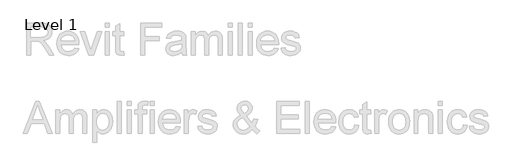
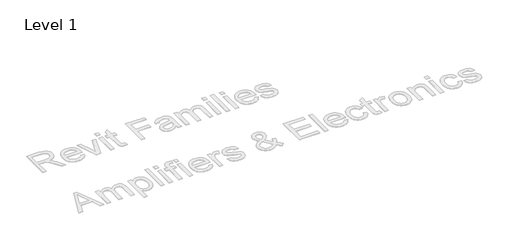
# One storey, part 14 of 14: 1 proxy.
"""IFC4 building model written with IfcOpenShell, lengths in millimetres."""

from ifc_helpers import new_model, si_unit, origin, origin_with_axes, place, context, project, spatial, polyline, outline, extrude, element, save

model = new_model("IFC4")

# Units and contexts
model_context = context("Model", 3, world=origin())
ifc_project = project(units=[si_unit("LENGTHUNIT", "METRE", prefix="MILLI")], contexts=[model_context])

# Site, building, storey
site = spatial("IfcSite", under=ifc_project)
building = spatial("IfcBuilding", under=site)
storey = spatial("IfcBuildingStorey", under=building, Name="Level 1", Elevation=0.0)

# Proxy
placement = place(None, origin())
element("IfcBuildingElementProxy", 1, Name="600mm Arial", ObjectType="600mm Arial", at=placement, inside=storey, context=model_context, shape_type="SweptSolid", body=[
    extrude(outline(polyline([(-11309.2935955, 22041.6162982), (-11309.2935955, 22632.385529), (-11054.7262878, 22632.385529), (-10986.3068167, 22628.401154), (-10936.5291724, 22616.448029), (-10917.3194369, 22606.9468271), (-10900.1469609, 22594.3807213), (-10885.0117446, 22578.7497117), (-10871.9137878, 22560.0537982), (-10861.3443768, 22539.2980891), (-10853.7947974, 22517.4876924), (-10847.755134, 22470.7028367), (-10850.2566364, 22440.3602886), (-10857.7611436, 22412.5057213), (-10870.2686556, 22387.1391347), (-10887.7791724, 22364.260529), (-10910.5180547, 22344.6000722), (-10938.7106628, 22328.8879328), (-10972.356997, 22317.1241107), (-11011.4570571, 22309.3086059), (-10987.1181148, 22293.4071636), (-10969.4859032, 22277.7220674), (-10909.630134, 22201.7124521), (-10811.1205186, 22041.6162982), (-10896.9378263, 22041.6162982), (-10973.8128263, 22164.0682213), (-11029.3416724, 22245.1259136), (-11049.9847013, 22268.7617309), (-11068.3560955, 22283.4191828), (-11103.4762878, 22297.4816828), (-11146.3128263, 22300.0778367), (-11235.4474417, 22300.0778367), (-11235.4474417, 22041.6162982), (-11309.2935955, 22041.6162982)]), holes=[polyline([(-11235.4474417, 22373.9239905), (-11070.1589801, 22373.9239905), (-11022.6890282, 22376.5381732), (-10985.8560955, 22384.3807213), (-10958.1277301, 22397.9744713), (-10937.9714801, 22417.8422597), (-10925.6938359, 22441.8747117), (-10921.6012878, 22467.9624521), (-10923.5529104, 22486.8476684), (-10929.4077782, 22503.9840867), (-10939.1658912, 22519.3717069), (-10952.8272494, 22533.010529), (-10970.7073575, 22544.1793992), (-10993.1217205, 22552.1571636), (-11020.0703383, 22556.9438222), (-11051.5532109, 22558.5393751), (-11235.4474417, 22558.5393751), (-11235.4474417, 22373.9239905)])]), origin_with_axes(), (0.0, 0.0, 1.0), 5.0),
    extrude(outline(polyline([(-10424.005134, 22170.8470674), (-10351.6012878, 22161.6162982), (-10362.7025498, 22132.6168992), (-10377.6890282, 22107.0610097), (-10396.5607229, 22084.9486299), (-10419.317634, 22066.2797597), (-10445.7253864, 22051.4510338), (-10475.5496051, 22040.8590867), (-10508.7902902, 22034.5039184), (-10545.4474417, 22032.385529), (-10591.2677542, 22036.0408775), (-10632.0940763, 22047.0069232), (-10667.926408, 22065.283666), (-10698.7647494, 22090.8711059), (-10723.5634273, 22123.0571035), (-10741.2767686, 22161.1295194), (-10751.9047734, 22205.0883535), (-10755.4474417, 22254.9336059), (-10751.8687157, 22306.4690626), (-10741.1325378, 22351.8927405), (-10723.238908, 22391.2046396), (-10698.1878263, 22424.4047597), (-10667.4306148, 22450.7809617), (-10632.4185955, 22469.6211059), (-10593.1517686, 22480.9251924), (-10549.630134, 22484.6932213), (-10507.5102422, 22480.9342069), (-10469.4197974, 22469.6571636), (-10435.3587998, 22450.8620915), (-10405.3272494, 22424.5489905), (-10380.8125258, 22391.4209857), (-10363.302009, 22352.1812021), (-10352.7956989, 22306.8296396), (-10349.2935955, 22255.3662982), (-10349.7262878, 22235.4624521), (-10681.6012878, 22235.4624521), (-10677.3239441, 22205.994303), (-10668.8188359, 22180.1860097), (-10656.0859633, 22158.0375722), (-10639.1253263, 22139.5489905), (-10618.8744248, 22124.9726684), (-10596.270759, 22114.5610097), (-10571.3143287, 22108.3140146), (-10544.005134, 22106.2316828), (-10504.7022494, 22110.0898559), (-10471.6012878, 22121.6643751), (-10444.7022494, 22141.6763944), (-10424.005134, 22170.8470674)]), holes=[polyline([(-10681.6012878, 22309.3086059), (-10423.1397494, 22309.3086059), (-10433.1277301, 22348.323029), (-10441.7184753, 22363.6655771), (-10452.7070571, 22376.2316828), (-10472.8452782, 22391.3759136), (-10495.7599417, 22402.1932213), (-10521.4510474, 22408.6836059), (-10549.9185955, 22410.8470674), (-10575.8846412, 22409.1208054), (-10599.6962398, 22403.9420194), (-10621.3533912, 22395.3107093), (-10640.8560955, 22383.2268751), (-10657.2217806, 22368.2494112), (-10669.4678744, 22350.9372117), (-10677.5943768, 22331.2902766), (-10681.6012878, 22309.3086059)])]), origin_with_axes(), (0.0, 0.0, 1.0), 5.0),
    extrude(outline(polyline([(-10169.005134, 22041.6162982), (-10321.6012878, 22475.4624521), (-10243.4282109, 22475.4624521), (-10150.9762878, 22215.5586059), (-10123.1397494, 22128.1547597), (-10095.880134, 22210.6547597), (-10002.8512878, 22475.4624521), (-9924.6782109, 22475.4624521), (-10075.3993648, 22041.6162982), (-10169.005134, 22041.6162982)])), origin_with_axes(), (0.0, 0.0, 1.0), 5.0),
    extrude(outline(polyline([(-9860.0628263, 22041.6162982), (-9860.0628263, 22475.4624521), (-9786.2166724, 22475.4624521), (-9786.2166724, 22041.6162982), (-9860.0628263, 22041.6162982)])), origin_with_axes(), (0.0, 0.0, 1.0), 5.0),
    extrude(outline(polyline([(-9860.0628263, 22558.5393751), (-9860.0628263, 22632.385529), (-9786.2166724, 22632.385529), (-9786.2166724, 22558.5393751), (-9860.0628263, 22558.5393751)])), origin_with_axes(), (0.0, 0.0, 1.0), 5.0),
    extrude(outline(polyline([(-9518.5243648, 22103.2028367), (-9509.2935955, 22039.4528367), (-9564.5339801, 22032.385529), (-9599.9786917, 22035.4504328), (-9626.4089801, 22044.6451444), (-9645.0868648, 22058.8158174), (-9657.2743648, 22076.8086059), (-9663.9810955, 22107.7100482), (-9666.2166724, 22160.6066828), (-9666.2166724, 22401.6162982), (-9721.6012878, 22401.6162982), (-9721.6012878, 22475.4624521), (-9666.2166724, 22475.4624521), (-9666.2166724, 22580.8951444), (-9592.3705186, 22624.3086059), (-9592.3705186, 22475.4624521), (-9518.5243648, 22475.4624521), (-9518.5243648, 22401.6162982), (-9592.3705186, 22401.6162982), (-9592.3705186, 22162.7701444), (-9588.4762878, 22124.6932213), (-9575.8560955, 22111.2076444), (-9565.2010474, 22107.4756732), (-9550.6878263, 22106.2316828), (-9518.5243648, 22103.2028367)])), origin_with_axes(), (0.0, 0.0, 1.0), 5.0),
    extrude(outline(polyline([(-9204.6782109, 22041.6162982), (-9204.6782109, 22632.385529), (-8807.755134, 22632.385529), (-8807.755134, 22558.5393751), (-9130.8320571, 22558.5393751), (-9130.8320571, 22383.1547597), (-8853.9089801, 22383.1547597), (-8853.9089801, 22309.3086059), (-9130.8320571, 22309.3086059), (-9130.8320571, 22041.6162982), (-9204.6782109, 22041.6162982)])), origin_with_axes(), (0.0, 0.0, 1.0), 5.0),
    extrude(outline(polyline([(-8438.5243648, 22097.0009136), (-8473.8068167, 22066.7485097), (-8510.1349417, 22046.9528367), (-8548.3380667, 22036.0273559), (-8589.2455186, 22032.385529), (-8622.1256268, 22034.5760338), (-8650.958259, 22041.1475482), (-8675.7434152, 22052.1000722), (-8696.4810955, 22067.4336059), (-8712.855795, 22086.1745915), (-8724.552009, 22107.3494713), (-8731.5697373, 22130.9582453), (-8733.9089801, 22157.0009136), (-8730.3753263, 22187.6138944), (-8719.7743648, 22215.4143751), (-8703.4222013, 22239.2124521), (-8682.6349417, 22257.8182213), (-8658.2058551, 22271.8807213), (-8630.9282109, 22282.0489905), (-8567.0339801, 22293.1547597), (-8491.5291724, 22304.8374521), (-8438.9570571, 22318.5393751), (-8438.5243648, 22334.9816828), (-8443.6084994, 22367.9384136), (-8449.9636676, 22380.1439424), (-8458.8609032, 22389.5009136), (-8474.239509, 22398.8398559), (-8492.9714801, 22405.510529), (-8540.4955186, 22410.8470674), (-8584.4859032, 22407.2953847), (-8615.2070571, 22396.6403367), (-8636.1565763, 22376.9348078), (-8650.8320571, 22346.2316828), (-8724.6782109, 22355.4624521), (-8711.8597013, 22395.8470674), (-8692.7310955, 22427.5778367), (-8665.5075378, 22451.8446636), (-8628.4041724, 22469.8374521), (-8583.0255667, 22480.979279), (-8530.9762878, 22484.6932213), (-8481.0544128, 22481.4119713), (-8441.4810955, 22471.5682213), (-8411.6433551, 22456.7665386), (-8390.9282109, 22438.6114905), (-8377.1902301, 22416.1655771), (-8368.2839801, 22388.4912982), (-8364.6782109, 22323.8759136), (-8364.6782109, 22232.0009136), (-8360.9282109, 22103.7076444), (-8355.3753263, 22071.994904), (-8346.2166724, 22041.6162982), (-8420.0628263, 22041.6162982), (-8431.8897494, 22067.2893751), (-8438.5243648, 22097.0009136)]), holes=[polyline([(-8438.5243648, 22244.6932213), (-8488.1397494, 22232.3975482), (-8557.6589801, 22222.0489905), (-8621.192634, 22210.0778367), (-8637.7250859, 22201.8927405), (-8649.9666724, 22190.6066828), (-8657.5387878, 22177.0850482), (-8660.0628263, 22162.1932213), (-8654.5640282, 22140.2340867), (-8638.067634, 22122.2412982), (-8610.9342205, 22110.2340867), (-8573.5243648, 22106.2316828), (-8533.8609032, 22110.6487501), (-8498.8128263, 22123.8999521), (-8470.3993648, 22143.4251924), (-8450.6397494, 22166.6643751), (-8441.8777301, 22190.6066828), (-8438.9570571, 22223.7797597), (-8438.5243648, 22244.6932213)])]), origin_with_axes(), (0.0, 0.0, 1.0), 5.0),
    extrude(outline(polyline([(-8263.1397494, 22041.6162982), (-8263.1397494, 22475.4624521), (-8189.2935955, 22475.4624521), (-8189.2935955, 22404.0682213), (-8167.0820571, 22436.8626924), (-8138.5243648, 22462.5537982), (-8104.5940763, 22479.1583655), (-8066.2647494, 22484.6932213), (-8025.1950378, 22479.0501924), (-8007.7160715, 22471.9964064), (-7992.2743648, 22462.1211059), (-7967.6830186, 22435.0237501), (-7951.6012878, 22398.8759136), (-7924.6842205, 22436.4209857), (-7893.9810955, 22463.2388944), (-7859.4919128, 22479.3296396), (-7821.2166724, 22484.6932213), (-7791.653872, 22482.4621516), (-7765.7058551, 22475.7689424), (-7743.372622, 22464.6135939), (-7724.6541724, 22448.9961059), (-7709.856997, 22428.73619), (-7699.2875859, 22403.6535578), (-7692.9459393, 22373.7482093), (-7690.8320571, 22339.0201444), (-7690.8320571, 22041.6162982), (-7764.6782109, 22041.6162982), (-7764.6782109, 22307.2893751), (-7766.3909513, 22344.1223078), (-7771.5291724, 22368.948029), (-7781.1565763, 22385.9492309), (-7796.3368648, 22399.3086059), (-7815.8621051, 22407.9624521), (-7838.5243648, 22410.8470674), (-7859.4513479, 22408.9991107), (-7878.5303744, 22403.4552405), (-7895.7614441, 22394.2154569), (-7911.1445571, 22381.2797597), (-7923.7962998, 22364.2695434), (-7932.833259, 22342.8062021), (-7938.2554345, 22316.8897357), (-7940.0628263, 22286.5201444), (-7940.0628263, 22041.6162982), (-8013.9089801, 22041.6162982), (-8013.9089801, 22315.510529), (-8018.1818167, 22357.2653367), (-8031.0003263, 22387.0489905), (-8040.9116845, 22397.4606492), (-8053.5544128, 22404.8975482), (-8068.9285114, 22409.3596876), (-8087.0339801, 22410.8470674), (-8115.4834994, 22406.8807213), (-8141.6974417, 22394.9816828), (-8163.3320571, 22375.4384136), (-8178.0435955, 22348.5393751), (-8186.4810955, 22311.2196636), (-8189.2935955, 22260.4143751), (-8189.2935955, 22041.6162982), (-8263.1397494, 22041.6162982)])), origin_with_axes(), (0.0, 0.0, 1.0), 5.0),
    extrude(outline(polyline([(-7580.0628263, 22041.6162982), (-7580.0628263, 22475.4624521), (-7506.2166724, 22475.4624521), (-7506.2166724, 22041.6162982), (-7580.0628263, 22041.6162982)])), origin_with_axes(), (0.0, 0.0, 1.0), 5.0),
    extrude(outline(polyline([(-7580.0628263, 22558.5393751), (-7580.0628263, 22632.385529), (-7506.2166724, 22632.385529), (-7506.2166724, 22558.5393751), (-7580.0628263, 22558.5393751)])), origin_with_axes(), (0.0, 0.0, 1.0), 5.0),
    extrude(outline(polyline([(-7395.4474417, 22041.6162982), (-7395.4474417, 22632.385529), (-7321.6012878, 22632.385529), (-7321.6012878, 22041.6162982), (-7395.4474417, 22041.6162982)])), origin_with_axes(), (0.0, 0.0, 1.0), 5.0),
    extrude(outline(polyline([(-7210.8320571, 22041.6162982), (-7210.8320571, 22475.4624521), (-7136.9859032, 22475.4624521), (-7136.9859032, 22041.6162982), (-7210.8320571, 22041.6162982)])), origin_with_axes(), (0.0, 0.0, 1.0), 5.0),
    extrude(outline(polyline([(-7210.8320571, 22558.5393751), (-7210.8320571, 22632.385529), (-7136.9859032, 22632.385529), (-7136.9859032, 22558.5393751), (-7210.8320571, 22558.5393751)])), origin_with_axes(), (0.0, 0.0, 1.0), 5.0),
    extrude(outline(polyline([(-6722.4666724, 22170.8470674), (-6650.0628263, 22161.6162982), (-6661.1640883, 22132.6168992), (-6676.1505667, 22107.0610097), (-6695.0222614, 22084.9486299), (-6717.7791724, 22066.2797597), (-6744.1869248, 22051.4510338), (-6774.0111436, 22040.8590867), (-6807.2518287, 22034.5039184), (-6843.9089801, 22032.385529), (-6889.7292926, 22036.0408775), (-6930.5556148, 22047.0069232), (-6966.3879465, 22065.283666), (-6997.2262878, 22090.8711059), (-7022.0249657, 22123.0571035), (-7039.7383071, 22161.1295194), (-7050.3663119, 22205.0883535), (-7053.9089801, 22254.9336059), (-7050.3302542, 22306.4690626), (-7039.5940763, 22351.8927405), (-7021.7004465, 22391.2046396), (-6996.6493648, 22424.4047597), (-6965.8921532, 22450.7809617), (-6930.880134, 22469.6211059), (-6891.6133071, 22480.9251924), (-6848.0916724, 22484.6932213), (-6805.9717806, 22480.9342069), (-6767.8813359, 22469.6571636), (-6733.8203383, 22450.8620915), (-6703.7887878, 22424.5489905), (-6679.2740643, 22391.4209857), (-6661.7635474, 22352.1812021), (-6651.2572373, 22306.8296396), (-6647.755134, 22255.3662982), (-6648.1878263, 22235.4624521), (-6980.0628263, 22235.4624521), (-6975.7854825, 22205.994303), (-6967.2803744, 22180.1860097), (-6954.5475018, 22158.0375722), (-6937.5868648, 22139.5489905), (-6917.3359633, 22124.9726684), (-6894.7322974, 22114.5610097), (-6869.7758672, 22108.3140146), (-6842.4666724, 22106.2316828), (-6803.1637878, 22110.0898559), (-6770.0628263, 22121.6643751), (-6743.1637878, 22141.6763944), (-6722.4666724, 22170.8470674)]), holes=[polyline([(-6980.0628263, 22309.3086059), (-6721.6012878, 22309.3086059), (-6731.5892686, 22348.323029), (-6740.1800138, 22363.6655771), (-6751.1685955, 22376.2316828), (-6771.3068167, 22391.3759136), (-6794.2214801, 22402.1932213), (-6819.9125859, 22408.6836059), (-6848.380134, 22410.8470674), (-6874.3461797, 22409.1208054), (-6898.1577782, 22403.9420194), (-6919.8149297, 22395.3107093), (-6939.317634, 22383.2268751), (-6955.6833191, 22368.2494112), (-6967.9294128, 22350.9372117), (-6976.0559152, 22331.2902766), (-6980.0628263, 22309.3086059)])]), origin_with_axes(), (0.0, 0.0, 1.0), 5.0),
    extrude(outline(polyline([(-6601.6012878, 22170.8470674), (-6527.755134, 22180.0778367), (-6523.2929946, 22163.2388944), (-6516.1084994, 22148.4912982), (-6506.2016484, 22135.8350482), (-6493.5724417, 22125.2701444), (-6478.1848215, 22116.9408174), (-6460.0027301, 22110.9912982), (-6415.255134, 22106.2316828), (-6371.0484032, 22110.5946636), (-6353.8669128, 22116.0483896), (-6339.9666724, 22123.6836059), (-6321.5772494, 22142.6499521), (-6315.4474417, 22164.6451444), (-6316.988908, 22174.6150963), (-6321.6133071, 22183.4672597), (-6340.1109032, 22197.8182213), (-6367.7671532, 22207.1932213), (-6416.1205186, 22218.8759136), (-6483.5123455, 22238.3650963), (-6527.3224417, 22255.0057213), (-6555.4654705, 22273.1607694), (-6575.8560955, 22297.1932213), (-6588.2419128, 22325.5706251), (-6592.3705186, 22356.760529), (-6589.0532109, 22385.3723078), (-6579.1012878, 22411.7845674), (-6563.4161917, 22434.9516347), (-6542.8993648, 22453.8278367), (-6522.5087398, 22465.7088463), (-6495.9522494, 22475.6787982), (-6465.2491244, 22482.4396155), (-6432.4185955, 22484.6932213), (-6384.3536917, 22481.0694232), (-6342.5628263, 22470.198029), (-6308.9570571, 22453.1427405), (-6285.4474417, 22430.9672597), (-6269.8705186, 22402.0309617), (-6260.0628263, 22364.6932213), (-6333.9089801, 22355.4624521), (-6343.2298936, 22378.7016347), (-6361.6734032, 22396.2076444), (-6389.4197974, 22407.1872117), (-6426.6493648, 22410.8470674), (-6469.0532109, 22407.3494713), (-6497.3224417, 22396.8566828), (-6513.223884, 22381.7124521), (-6518.5243648, 22364.260529), (-6516.3248455, 22352.9023559), (-6509.7262878, 22342.7701444), (-6498.4402301, 22333.7196636), (-6482.1782109, 22326.4720674), (-6418.5724417, 22310.7509136), (-6310.1830186, 22275.9912982), (-6281.5532109, 22259.3687021), (-6259.8464801, 22236.6162982), (-6246.1625859, 22207.6619713), (-6241.6012878, 22172.4336059), (-6246.9558551, 22136.0153367), (-6263.0195571, 22101.760529), (-6289.1794128, 22072.3554809), (-6324.8224417, 22050.4864905), (-6367.8753263, 22036.9107694), (-6416.2647494, 22032.385529), (-6456.0093407, 22034.5670194), (-6490.723884, 22041.1114905), (-6520.4083792, 22052.0189424), (-6545.0628263, 22067.2893751), (-6565.2010474, 22086.8506732), (-6581.3368648, 22110.6307213), (-6593.4702782, 22138.6295194), (-6601.6012878, 22170.8470674)])), origin_with_axes(), (0.0, 0.0, 1.0), 5.0),
    extrude(outline(polyline([(-11378.0916724, 20583.1547597), (-11142.2743648, 21173.9239905), (-11079.3897494, 21173.9239905), (-10843.5724417, 20583.1547597), (-10921.6012878, 20583.1547597), (-10989.2455186, 20767.7701444), (-11232.5628263, 20767.7701444), (-11300.0628263, 20583.1547597), (-11378.0916724, 20583.1547597)]), holes=[polyline([(-11205.4474417, 20841.6162982), (-11016.2166724, 20841.6162982), (-11069.4378263, 20986.8566828), (-11110.8320571, 21100.0778367), (-11147.6109032, 20999.5489905), (-11205.4474417, 20841.6162982)])]), origin_with_axes(), (0.0, 0.0, 1.0), 5.0),
    extrude(outline(polyline([(-10773.9089801, 20583.1547597), (-10773.9089801, 21017.0009136), (-10700.0628263, 21017.0009136), (-10700.0628263, 20945.6066828), (-10677.8512878, 20978.401154), (-10649.2935955, 21004.0922597), (-10615.3633071, 21020.6968271), (-10577.0339801, 21026.2316828), (-10535.9642686, 21020.588654), (-10518.4853023, 21013.5348679), (-10503.0435955, 21003.6595674), (-10478.4522494, 20976.5622117), (-10462.3705186, 20940.4143751), (-10435.4534513, 20977.9594472), (-10404.7503263, 21004.7773559), (-10370.2611436, 21020.8681011), (-10331.9859032, 21026.2316828), (-10302.4231027, 21024.0006131), (-10276.4750859, 21017.307404), (-10254.1418527, 21006.1520554), (-10235.4234032, 20990.5345674), (-10220.6262277, 20970.2746516), (-10210.0568167, 20945.1920194), (-10203.71517, 20915.2866708), (-10201.6012878, 20880.5586059), (-10201.6012878, 20583.1547597), (-10275.4474417, 20583.1547597), (-10275.4474417, 20848.8278367), (-10277.1601821, 20885.6607694), (-10282.2984032, 20910.4864905), (-10291.9258071, 20927.4876924), (-10307.1060955, 20940.8470674), (-10326.6313359, 20949.5009136), (-10349.2935955, 20952.385529), (-10370.2205787, 20950.5375722), (-10389.2996051, 20944.9937021), (-10406.5306748, 20935.7539184), (-10421.9137878, 20922.8182213), (-10434.5655306, 20905.8080049), (-10443.6024898, 20884.3446636), (-10449.0246652, 20858.4281972), (-10450.8320571, 20828.0586059), (-10450.8320571, 20583.1547597), (-10524.6782109, 20583.1547597), (-10524.6782109, 20857.0489905), (-10528.9510474, 20898.8037982), (-10541.7695571, 20928.5874521), (-10551.6809152, 20938.9991107), (-10564.3236436, 20946.4360097), (-10579.6977422, 20950.8981492), (-10597.8032109, 20952.385529), (-10626.2527301, 20948.4191828), (-10652.4666724, 20936.5201444), (-10674.1012878, 20916.9768751), (-10688.8128263, 20890.0778367), (-10697.2503263, 20852.7581251), (-10700.0628263, 20801.9528367), (-10700.0628263, 20583.1547597), (-10773.9089801, 20583.1547597)])), origin_with_axes(), (0.0, 0.0, 1.0), 5.0),
    extrude(outline(polyline([(-10090.8320571, 20417.0009136), (-10090.8320571, 21017.0009136), (-10016.9859032, 21017.0009136), (-10016.9859032, 20944.5970674), (-9992.8993648, 20980.3122117), (-9965.9282109, 21005.823029), (-9934.4859032, 21021.1295194), (-9896.9859032, 21026.2316828), (-9871.2316965, 21024.4468271), (-9847.0459994, 21019.0922597), (-9824.4288119, 21010.1679809), (-9803.380134, 20997.6739905), (-9784.3597013, 20981.9348078), (-9767.8272494, 20963.2749521), (-9753.7827782, 20941.6944232), (-9742.2262878, 20917.1932213), (-9726.7575378, 20862.7821636), (-9721.6012878, 20803.3951444), (-9727.4246051, 20740.2400963), (-9734.7037518, 20711.1640747), (-9744.8945571, 20683.7557213), (-9757.8572974, 20658.7316828), (-9773.4522494, 20636.8086059), (-9791.6794128, 20617.9864905), (-9812.5387878, 20602.2653367), (-9835.0072373, 20589.8659977), (-9858.0616244, 20581.0093271), (-9881.7019489, 20575.6953247), (-9905.9282109, 20573.9239905), (-9939.8765282, 20578.6655771), (-9970.1830186, 20592.8903367), (-9996.1265282, 20614.3626924), (-10016.9859032, 20640.8470674), (-10016.9859032, 20417.0009136), (-10090.8320571, 20417.0009136)]), holes=[polyline([(-10016.9859032, 20796.6162982), (-10014.9892085, 20761.0273559), (-10008.9991244, 20730.4143751), (-9999.0156508, 20704.7773559), (-9985.0387878, 20684.1162982), (-9968.2133672, 20668.2148559), (-9949.6842205, 20656.8566828), (-9929.4513479, 20650.041779), (-9907.5147494, 20647.7701444), (-9885.262646, 20650.1229088), (-9864.6601821, 20657.1812021), (-9845.7073575, 20668.9450242), (-9828.4041724, 20685.4143751), (-9813.9856027, 20706.8236299), (-9803.6866244, 20733.4071636), (-9797.5072373, 20765.1649761), (-9795.4474417, 20802.0970674), (-9797.457658, 20837.3795194), (-9803.4883071, 20867.9384136), (-9813.5393888, 20893.7737501), (-9827.6109032, 20914.885529), (-9844.4768888, 20931.291779), (-9862.911384, 20943.010529), (-9882.9143888, 20950.041779), (-9904.4859032, 20952.385529), (-9925.9898095, 20949.893041), (-9946.2226821, 20942.4155771), (-9965.184521, 20929.9531372), (-9982.8753263, 20912.5057213), (-9997.7987037, 20890.3077045), (-10008.458259, 20863.5934617), (-10014.8539922, 20832.3629929), (-10016.9859032, 20796.6162982)])]), origin_with_axes(), (0.0, 0.0, 1.0), 5.0),
    extrude(outline(polyline([(-9638.5243648, 20583.1547597), (-9638.5243648, 21173.9239905), (-9564.6782109, 21173.9239905), (-9564.6782109, 20583.1547597), (-9638.5243648, 20583.1547597)])), origin_with_axes(), (0.0, 0.0, 1.0), 5.0),
    extrude(outline(polyline([(-9453.9089801, 20583.1547597), (-9453.9089801, 21017.0009136), (-9380.0628263, 21017.0009136), (-9380.0628263, 20583.1547597), (-9453.9089801, 20583.1547597)])), origin_with_axes(), (0.0, 0.0, 1.0), 5.0),
    extrude(outline(polyline([(-9453.9089801, 21100.0778367), (-9453.9089801, 21173.9239905), (-9380.0628263, 21173.9239905), (-9380.0628263, 21100.0778367), (-9453.9089801, 21100.0778367)])), origin_with_axes(), (0.0, 0.0, 1.0), 5.0),
    extrude(outline(polyline([(-9250.8320571, 20583.1547597), (-9250.8320571, 20943.1547597), (-9315.4474417, 20943.1547597), (-9315.4474417, 21017.0009136), (-9250.8320571, 21017.0009136), (-9250.8320571, 21060.7028367), (-9248.8849417, 21096.8687021), (-9243.0435955, 21122.2893751), (-9228.1878263, 21146.8446636), (-9205.255134, 21166.2797597), (-9173.1637878, 21178.9360097), (-9130.8320571, 21183.1547597), (-9098.7767686, 21181.135529), (-9063.4762878, 21175.0778367), (-9074.2935955, 21105.8470674), (-9116.8416724, 21109.3086059), (-9144.9125859, 21106.2437021), (-9163.3560955, 21097.0489905), (-9173.5784513, 21079.4888944), (-9176.9859032, 21051.3278367), (-9176.9859032, 21017.0009136), (-9093.9089801, 21017.0009136), (-9093.9089801, 20943.1547597), (-9176.9859032, 20943.1547597), (-9176.9859032, 20583.1547597), (-9250.8320571, 20583.1547597)])), origin_with_axes(), (0.0, 0.0, 1.0), 5.0),
    extrude(outline(polyline([(-9029.2935955, 20583.1547597), (-9029.2935955, 21017.0009136), (-8955.4474417, 21017.0009136), (-8955.4474417, 20583.1547597), (-9029.2935955, 20583.1547597)])), origin_with_axes(), (0.0, 0.0, 1.0), 5.0),
    extrude(outline(polyline([(-9029.2935955, 21100.0778367), (-9029.2935955, 21173.9239905), (-8955.4474417, 21173.9239905), (-8955.4474417, 21100.0778367), (-9029.2935955, 21100.0778367)])), origin_with_axes(), (0.0, 0.0, 1.0), 5.0),
    extrude(outline(polyline([(-8540.9282109, 20712.385529), (-8468.5243648, 20703.1547597), (-8479.6256268, 20674.1553607), (-8494.6121051, 20648.5994713), (-8513.4837998, 20626.4870915), (-8536.2407109, 20607.8182213), (-8562.6484633, 20592.9894953), (-8592.4726821, 20582.3975482), (-8625.7133672, 20576.0423799), (-8662.3705186, 20573.9239905), (-8708.1908311, 20577.5793391), (-8749.0171532, 20588.5453847), (-8784.8494849, 20606.8221275), (-8815.6878263, 20632.4095674), (-8840.4865042, 20664.595565), (-8858.1998455, 20702.6679809), (-8868.8278503, 20746.626815), (-8872.3705186, 20796.4720674), (-8868.7917926, 20848.0075242), (-8858.0556148, 20893.4312021), (-8840.1619849, 20932.7431011), (-8815.1109032, 20965.9432213), (-8784.3536917, 20992.3194232), (-8749.3416724, 21011.1595674), (-8710.0748455, 21022.463654), (-8666.5532109, 21026.2316828), (-8624.4333191, 21022.4726684), (-8586.3428744, 21011.1956251), (-8552.2818768, 20992.400553), (-8522.2503263, 20966.0874521), (-8497.7356027, 20932.9594472), (-8480.2250859, 20893.7196636), (-8469.7187758, 20848.3681011), (-8466.2166724, 20796.9047597), (-8466.6493648, 20777.0009136), (-8798.5243648, 20777.0009136), (-8794.247021, 20747.5327646), (-8785.7419128, 20721.7244713), (-8773.0090402, 20699.5760338), (-8756.0484032, 20681.0874521), (-8735.7975018, 20666.5111299), (-8713.1938359, 20656.0994713), (-8688.2374056, 20649.8524761), (-8660.9282109, 20647.7701444), (-8621.6253263, 20651.6283174), (-8588.5243648, 20663.2028367), (-8561.6253263, 20683.2148559), (-8540.9282109, 20712.385529)]), holes=[polyline([(-8798.5243648, 20850.8470674), (-8540.0628263, 20850.8470674), (-8550.0508071, 20889.8614905), (-8558.6415523, 20905.2040386), (-8569.630134, 20917.7701444), (-8589.7683551, 20932.9143751), (-8612.6830186, 20943.7316828), (-8638.3741244, 20950.2220674), (-8666.8416724, 20952.385529), (-8692.8077181, 20950.659267), (-8716.6193167, 20945.4804809), (-8738.2764681, 20936.8491708), (-8757.7791724, 20924.7653367), (-8774.1448575, 20909.7878727), (-8786.3909513, 20892.4756732), (-8794.5174537, 20872.8287381), (-8798.5243648, 20850.8470674)])]), origin_with_axes(), (0.0, 0.0, 1.0), 5.0),
    extrude(outline(polyline([(-8392.3705186, 20583.1547597), (-8392.3705186, 21017.0009136), (-8327.755134, 21017.0009136), (-8327.755134, 20952.8182213), (-8303.8849417, 20990.0297597), (-8281.8897494, 21011.9528367), (-8259.8224417, 21022.6619713), (-8235.7359032, 21026.2316828), (-8198.9570571, 21020.5345674), (-8161.6012878, 21003.4432213), (-8186.2647494, 20937.2412982), (-8212.2262878, 20948.5994713), (-8238.1878263, 20952.385529), (-8260.2371051, 20948.7437021), (-8279.942634, 20937.8182213), (-8295.8621051, 20920.4384136), (-8306.5532109, 20897.4336059), (-8315.5315763, 20856.1836059), (-8318.5243648, 20811.1836059), (-8318.5243648, 20583.1547597), (-8392.3705186, 20583.1547597)])), origin_with_axes(), (0.0, 0.0, 1.0), 5.0),
    extrude(outline(polyline([(-8143.1397494, 20712.385529), (-8069.2935955, 20721.6162982), (-8064.8314561, 20704.7773559), (-8057.6469609, 20690.0297597), (-8047.7401099, 20677.3735097), (-8035.1109032, 20666.8086059), (-8019.723283, 20658.479279), (-8001.5411917, 20652.5297597), (-7956.7935955, 20647.7701444), (-7912.5868648, 20652.1331251), (-7895.4053744, 20657.5868511), (-7881.505134, 20665.2220674), (-7863.1157109, 20684.1884136), (-7856.9859032, 20706.1836059), (-7858.5273696, 20716.1535578), (-7863.1517686, 20725.0057213), (-7881.6493648, 20739.3566828), (-7909.3056148, 20748.7316828), (-7957.6589801, 20760.4143751), (-8025.0508071, 20779.9035578), (-8068.8609032, 20796.5441828), (-8097.0039321, 20814.6992309), (-8117.3945571, 20838.7316828), (-8129.7803744, 20867.1090867), (-8133.9089801, 20898.2989905), (-8130.5916724, 20926.9107694), (-8120.6397494, 20953.323029), (-8104.9546532, 20976.4900963), (-8084.4378263, 20995.3662982), (-8064.0472013, 21007.2473078), (-8037.4907109, 21017.2172597), (-8006.7875859, 21023.9780771), (-7973.9570571, 21026.2316828), (-7925.8921532, 21022.6078847), (-7884.1012878, 21011.7364905), (-7850.4955186, 20994.6812021), (-7826.9859032, 20972.5057213), (-7811.4089801, 20943.5694232), (-7801.6012878, 20906.2316828), (-7875.4474417, 20897.0009136), (-7884.7683551, 20920.2400963), (-7903.2118648, 20937.7461059), (-7930.958259, 20948.7256732), (-7968.1878263, 20952.385529), (-8010.5916724, 20948.8879328), (-8038.8609032, 20938.3951444), (-8054.7623455, 20923.2509136), (-8060.0628263, 20905.7989905), (-8057.8633071, 20894.4408174), (-8051.2647494, 20884.3086059), (-8039.9786917, 20875.2581251), (-8023.7166724, 20868.010529), (-7960.1109032, 20852.2893751), (-7851.7214801, 20817.5297597), (-7823.0916724, 20800.9071636), (-7801.3849417, 20778.1547597), (-7787.7010474, 20749.2004328), (-7783.1397494, 20713.9720674), (-7788.4943167, 20677.5537982), (-7804.5580186, 20643.2989905), (-7830.7178744, 20613.8939424), (-7866.3609032, 20592.0249521), (-7909.4137878, 20578.4492309), (-7957.8032109, 20573.9239905), (-7997.5478023, 20576.1054809), (-8032.2623455, 20582.6499521), (-8061.9468407, 20593.557404), (-8086.6012878, 20608.8278367), (-8106.739509, 20628.3891347), (-8122.8753263, 20652.1691828), (-8135.0087398, 20680.1679809), (-8143.1397494, 20712.385529)])), origin_with_axes(), (0.0, 0.0, 1.0), 5.0),
    extrude(outline(polyline([(-7130.4955186, 20656.135529), (-7168.0315763, 20620.1679809), (-7208.8128263, 20594.4768751), (-7252.911384, 20579.0622117), (-7300.3993648, 20573.9239905), (-7343.4883071, 20577.7280771), (-7381.8897494, 20589.1403367), (-7415.6036917, 20608.1607694), (-7444.630134, 20634.7893751), (-7463.4973215, 20660.3272357), (-7476.973884, 20687.3254328), (-7485.0598215, 20715.7839665), (-7487.755134, 20745.7028367), (-7485.5871652, 20772.2322838), (-7479.083259, 20797.4456251), (-7468.2434152, 20821.3428607), (-7453.067634, 20843.9239905), (-7433.5829585, 20865.1800001), (-7409.8164321, 20885.1018751), (-7381.7680547, 20903.6896155), (-7349.4378263, 20920.9432213), (-7381.6553744, 20962.6259136), (-7401.0003263, 20995.6547597), (-7410.6818167, 21023.8518751), (-7413.9089801, 21051.0393751), (-7411.3669128, 21076.8476684), (-7403.7407109, 21100.9071636), (-7391.0303744, 21123.2178607), (-7373.2359032, 21143.7797597), (-7351.5922734, 21161.0063222), (-7327.3344609, 21173.3110097), (-7300.4624657, 21180.6938222), (-7270.9762878, 21183.1547597), (-7242.8242446, 21180.8019953), (-7217.3584994, 21173.7437021), (-7194.5790523, 21161.9798799), (-7174.4859032, 21145.510529), (-7158.0796532, 21125.7418992), (-7146.3609032, 21104.0802405), (-7139.3296532, 21080.525553), (-7136.9859032, 21055.0778367), (-7138.7211797, 21034.119303), (-7143.927009, 21013.9360097), (-7152.6033912, 20994.5279569), (-7164.7503263, 20975.8951444), (-7199.4558551, 20940.9552405), (-7248.0435955, 20909.1162982), (-7141.1685955, 20775.9912982), (-7122.9594609, 20814.0321636), (-7109.2935955, 20857.7701444), (-7035.4474417, 20841.760529), (-7058.1637878, 20773.3590867), (-7072.0640282, 20744.8644953), (-7087.6589801, 20720.1739905), (-7045.6878263, 20671.2076444), (-6998.5243648, 20630.7509136), (-7053.9089801, 20573.9239905), (-7091.5892686, 20608.3951444), (-7130.4955186, 20656.135529)]), holes=[polyline([(-7285.3993648, 20955.7028367), (-7246.7815763, 20980.2040386), (-7224.6782109, 21001.4961059), (-7214.2935955, 21022.2112501), (-7210.8320571, 21044.9816828), (-7215.3933551, 21070.7809617), (-7229.0772494, 21091.3518751), (-7249.6121051, 21104.8194232), (-7274.7262878, 21109.3086059), (-7300.3813359, 21104.8554809), (-7321.3849417, 21091.4961059), (-7335.3933551, 21071.7184617), (-7340.0628263, 21048.010529), (-7333.7166724, 21020.9672597), (-7314.5339801, 20990.8951444), (-7285.3993648, 20955.7028367)]), polyline([(-7179.9666724, 20709.3566828), (-7311.7935955, 20873.9239905), (-7362.1481628, 20841.7965867), (-7392.9234032, 20812.0489905), (-7408.6625859, 20783.635529), (-7413.9089801, 20755.510529), (-7412.1151099, 20738.2569232), (-7406.7334994, 20720.6787982), (-7385.2070571, 20684.5489905), (-7369.3597013, 20668.4582453), (-7350.5195571, 20656.9648559), (-7328.6866244, 20650.0688222), (-7303.8609032, 20647.7701444), (-7270.4534513, 20652.0610097), (-7236.0003263, 20664.9336059), (-7204.5039321, 20684.6211059), (-7179.9666724, 20709.3566828)])]), origin_with_axes(), (0.0, 0.0, 1.0), 5.0),
    extrude(outline(polyline([(-6684.6782109, 20583.1547597), (-6684.6782109, 21173.9239905), (-6260.0628263, 21173.9239905), (-6260.0628263, 21100.0778367), (-6610.8320571, 21100.0778367), (-6610.8320571, 20924.6932213), (-6278.5243648, 20924.6932213), (-6278.5243648, 20850.8470674), (-6610.8320571, 20850.8470674), (-6610.8320571, 20657.0009136), (-6250.8320571, 20657.0009136), (-6250.8320571, 20583.1547597), (-6684.6782109, 20583.1547597)])), origin_with_axes(), (0.0, 0.0, 1.0), 5.0),
    extrude(outline(polyline([(-6149.2935955, 20583.1547597), (-6149.2935955, 21173.9239905), (-6075.4474417, 21173.9239905), (-6075.4474417, 20583.1547597), (-6149.2935955, 20583.1547597)])), origin_with_axes(), (0.0, 0.0, 1.0), 5.0),
    extrude(outline(polyline([(-5660.9282109, 20712.385529), (-5588.5243648, 20703.1547597), (-5599.6256268, 20674.1553607), (-5614.6121051, 20648.5994713), (-5633.4837998, 20626.4870915), (-5656.2407109, 20607.8182213), (-5682.6484633, 20592.9894953), (-5712.4726821, 20582.3975482), (-5745.7133672, 20576.0423799), (-5782.3705186, 20573.9239905), (-5828.1908311, 20577.5793391), (-5869.0171532, 20588.5453847), (-5904.8494849, 20606.8221275), (-5935.6878263, 20632.4095674), (-5960.4865042, 20664.595565), (-5978.1998455, 20702.6679809), (-5988.8278503, 20746.626815), (-5992.3705186, 20796.4720674), (-5988.7917926, 20848.0075242), (-5978.0556148, 20893.4312021), (-5960.1619849, 20932.7431011), (-5935.1109032, 20965.9432213), (-5904.3536917, 20992.3194232), (-5869.3416724, 21011.1595674), (-5830.0748455, 21022.463654), (-5786.5532109, 21026.2316828), (-5744.4333191, 21022.4726684), (-5706.3428744, 21011.1956251), (-5672.2818768, 20992.400553), (-5642.2503263, 20966.0874521), (-5617.7356027, 20932.9594472), (-5600.2250859, 20893.7196636), (-5589.7187758, 20848.3681011), (-5586.2166724, 20796.9047597), (-5586.6493648, 20777.0009136), (-5918.5243648, 20777.0009136), (-5914.247021, 20747.5327646), (-5905.7419128, 20721.7244713), (-5893.0090402, 20699.5760338), (-5876.0484032, 20681.0874521), (-5855.7975018, 20666.5111299), (-5833.1938359, 20656.0994713), (-5808.2374056, 20649.8524761), (-5780.9282109, 20647.7701444), (-5741.6253263, 20651.6283174), (-5708.5243648, 20663.2028367), (-5681.6253263, 20683.2148559), (-5660.9282109, 20712.385529)]), holes=[polyline([(-5918.5243648, 20850.8470674), (-5660.0628263, 20850.8470674), (-5670.0508071, 20889.8614905), (-5678.6415523, 20905.2040386), (-5689.630134, 20917.7701444), (-5709.7683551, 20932.9143751), (-5732.6830186, 20943.7316828), (-5758.3741244, 20950.2220674), (-5786.8416724, 20952.385529), (-5812.8077181, 20950.659267), (-5836.6193167, 20945.4804809), (-5858.2764681, 20936.8491708), (-5877.7791724, 20924.7653367), (-5894.1448575, 20909.7878727), (-5906.3909513, 20892.4756732), (-5914.5174537, 20872.8287381), (-5918.5243648, 20850.8470674)])]), origin_with_axes(), (0.0, 0.0, 1.0), 5.0),
    extrude(outline(polyline([(-5235.4474417, 20740.0778367), (-5161.6012878, 20730.8470674), (-5169.6331388, 20696.001815), (-5182.1902301, 20665.1679809), (-5199.2725619, 20638.345565), (-5220.880134, 20615.5345674), (-5246.1024898, 20597.32994), (-5274.0291724, 20584.3266347), (-5304.6601821, 20576.5246516), (-5337.9955186, 20573.9239905), (-5379.4122854, 20577.5522958), (-5416.5472013, 20588.4372117), (-5449.4002662, 20606.5787381), (-5477.9714801, 20631.9768751), (-5501.0979825, 20664.1538583), (-5517.6169128, 20702.6319232), (-5527.528271, 20747.4110698), (-5530.8320571, 20798.4912982), (-5525.1890282, 20864.2064424), (-5518.1352422, 20893.7782573), (-5508.2599417, 20921.1595674), (-5495.4955186, 20945.8004929), (-5479.7743648, 20967.151154), (-5461.0964801, 20985.2115506), (-5439.4618648, 20999.9816828), (-5415.8485835, 21011.4660578), (-5391.2347013, 21019.6691828), (-5365.6202181, 21024.5910578), (-5339.005134, 21026.2316828), (-5306.2422133, 21023.9780771), (-5276.6072974, 21017.2172597), (-5250.1003864, 21005.9492309), (-5226.7214801, 20990.1739905), (-5206.8672133, 20970.2521155), (-5190.9342205, 20946.5441828), (-5178.9225018, 20919.0501924), (-5170.8320571, 20887.7701444), (-5244.6782109, 20878.5393751), (-5258.0736436, 20910.7569232), (-5278.9330186, 20933.8518751), (-5306.1024898, 20947.7521155), (-5338.4282109, 20952.385529), (-5363.5198575, 20950.1048799), (-5386.1505667, 20943.2629328), (-5406.3203383, 20931.8596876), (-5424.0291724, 20915.8951444), (-5438.4477422, 20894.9997117), (-5448.7467205, 20868.8037982), (-5454.9261075, 20837.307404), (-5456.9859032, 20800.510529), (-5454.9711797, 20763.159267), (-5448.927009, 20731.2977886), (-5438.8533912, 20704.9260939), (-5424.7503263, 20684.0441828), (-5407.3930547, 20668.174291), (-5387.5568167, 20656.838654), (-5365.2416123, 20650.0372718), (-5340.4474417, 20647.7701444), (-5302.208259, 20653.4312021), (-5285.6712998, 20660.5075242), (-5270.8560955, 20670.4143751), (-5258.1773095, 20683.259928), (-5248.0496051, 20699.1523559), (-5240.4729825, 20718.0916588), (-5235.4474417, 20740.0778367)])), origin_with_axes(), (0.0, 0.0, 1.0), 5.0),
    extrude(outline(polyline([(-4940.0628263, 20644.7412982), (-4930.8320571, 20580.9912982), (-4986.0724417, 20573.9239905), (-5021.5171532, 20576.9888944), (-5047.9474417, 20586.1836059), (-5066.6253263, 20600.354279), (-5078.8128263, 20618.3470674), (-5085.5195571, 20649.2485097), (-5087.755134, 20702.1451444), (-5087.755134, 20943.1547597), (-5143.1397494, 20943.1547597), (-5143.1397494, 21017.0009136), (-5087.755134, 21017.0009136), (-5087.755134, 21122.4336059), (-5013.9089801, 21165.8470674), (-5013.9089801, 21017.0009136), (-4940.0628263, 21017.0009136), (-4940.0628263, 20943.1547597), (-5013.9089801, 20943.1547597), (-5013.9089801, 20704.3086059), (-5010.0147494, 20666.2316828), (-4997.3945571, 20652.7461059), (-4986.739509, 20649.0141347), (-4972.2262878, 20647.7701444), (-4940.0628263, 20644.7412982)])), origin_with_axes(), (0.0, 0.0, 1.0), 5.0),
    extrude(outline(polyline([(-4866.2166724, 20583.1547597), (-4866.2166724, 21017.0009136), (-4801.6012878, 21017.0009136), (-4801.6012878, 20952.8182213), (-4777.7310955, 20990.0297597), (-4755.7359032, 21011.9528367), (-4733.6685955, 21022.6619713), (-4709.5820571, 21026.2316828), (-4672.8032109, 21020.5345674), (-4635.4474417, 21003.4432213), (-4660.1109032, 20937.2412982), (-4686.0724417, 20948.5994713), (-4712.0339801, 20952.385529), (-4734.083259, 20948.7437021), (-4753.7887878, 20937.8182213), (-4769.708259, 20920.4384136), (-4780.3993648, 20897.4336059), (-4789.3777301, 20856.1836059), (-4792.3705186, 20811.1836059), (-4792.3705186, 20583.1547597), (-4866.2166724, 20583.1547597)])), origin_with_axes(), (0.0, 0.0, 1.0), 5.0),
    extrude(outline(polyline([(-4607.755134, 20800.0778367), (-4603.7617446, 20856.2647357), (-4591.7815763, 20904.6812021), (-4571.8146292, 20945.3272357), (-4543.8609032, 20978.2028367), (-4515.7178744, 20999.2154569), (-4484.6541724, 21014.2244713), (-4450.6697974, 21023.2298799), (-4413.7647494, 21026.2316828), (-4373.0240643, 21022.5763343), (-4336.1866244, 21011.6102886), (-4303.2524297, 20993.3335458), (-4274.2214801, 20967.7461059), (-4250.5270691, 20935.7133535), (-4233.6024898, 20898.1006732), (-4223.4477422, 20854.908065), (-4220.0628263, 20806.135529), (-4221.5592205, 20766.6072838), (-4226.0484032, 20731.5321636), (-4233.5303744, 20700.9101684), (-4244.005134, 20674.7412982), (-4257.3419729, 20652.1376323), (-4273.4101821, 20632.2112501), (-4292.2097614, 20614.9621516), (-4313.7407109, 20600.3903367), (-4337.1646893, 20588.8113102), (-4361.6433551, 20580.5405771), (-4387.1767085, 20575.5781372), (-4413.7647494, 20573.9239905), (-4455.1003864, 20577.5658174), (-4492.2803744, 20588.4912982), (-4525.3047133, 20606.7004328), (-4554.1734032, 20632.1932213), (-4577.6154104, 20664.5369713), (-4594.3597013, 20703.2989905), (-4604.4062758, 20748.479279), (-4607.755134, 20800.0778367)]), holes=[polyline([(-4533.9089801, 20800.2220674), (-4531.7725619, 20764.4032573), (-4525.3633071, 20733.3891347), (-4514.6812157, 20707.1796997), (-4499.7262878, 20685.7749521), (-4481.5351821, 20669.1478487), (-4461.1445571, 20657.2713463), (-4438.5544128, 20650.1454448), (-4413.7647494, 20647.7701444), (-4389.1012878, 20650.1589665), (-4366.6012878, 20657.3254328), (-4346.2647494, 20669.2695434), (-4328.0916724, 20685.9912982), (-4313.1367446, 20707.6078847), (-4302.4546532, 20734.2364905), (-4296.0453984, 20765.8771155), (-4293.9089801, 20802.5297597), (-4296.05892, 20837.2127525), (-4302.5087398, 20867.4155771), (-4313.2584393, 20893.1382333), (-4328.3080186, 20914.3807213), (-4346.5487037, 20931.0078247), (-4366.8717205, 20942.8843271), (-4389.2770691, 20950.0102285), (-4413.7647494, 20952.385529), (-4438.5544128, 20950.0192429), (-4461.1445571, 20942.9203847), (-4481.5351821, 20931.0889545), (-4499.7262878, 20914.5249521), (-4514.6812157, 20893.1833054), (-4525.3633071, 20867.0189424), (-4531.7725619, 20836.0318631), (-4533.9089801, 20800.2220674)])]), origin_with_axes(), (0.0, 0.0, 1.0), 5.0),
    extrude(outline(polyline([(-4136.9859032, 20583.1547597), (-4136.9859032, 21017.0009136), (-4063.1397494, 21017.0009136), (-4063.1397494, 20956.4239905), (-4037.4847013, 20986.9648559), (-4006.6734032, 21008.7797597), (-3970.7058551, 21021.8687021), (-3929.5820571, 21026.2316828), (-3893.1818167, 21022.7160578), (-3859.8464801, 21012.1691828), (-3832.0459994, 20995.9071636), (-3812.2503263, 20975.2461059), (-3798.8188359, 20950.2400963), (-3790.1109032, 20920.9432213), (-3786.2166724, 20849.5489905), (-3786.2166724, 20583.1547597), (-3860.0628263, 20583.1547597), (-3860.0628263, 20839.5970674), (-3862.1902301, 20877.7821636), (-3868.5724417, 20904.9336059), (-3880.3452782, 20924.3867309), (-3898.6445571, 20939.4768751), (-3922.1000859, 20949.1583655), (-3949.3416724, 20952.385529), (-3971.7650498, 20950.5736299), (-3992.5928744, 20945.1379328), (-4011.825146, 20936.0784376), (-4029.4618648, 20923.3951444), (-4044.1959393, 20905.6457453), (-4054.7202782, 20881.3879328), (-4061.0348816, 20850.6217069), (-4063.1397494, 20813.3470674), (-4063.1397494, 20583.1547597), (-4136.9859032, 20583.1547597)])), origin_with_axes(), (0.0, 0.0, 1.0), 5.0),
    extrude(outline(polyline([(-3684.6782109, 20583.1547597), (-3684.6782109, 21017.0009136), (-3610.8320571, 21017.0009136), (-3610.8320571, 20583.1547597), (-3684.6782109, 20583.1547597)])), origin_with_axes(), (0.0, 0.0, 1.0), 5.0),
    extrude(outline(polyline([(-3684.6782109, 21100.0778367), (-3684.6782109, 21173.9239905), (-3610.8320571, 21173.9239905), (-3610.8320571, 21100.0778367), (-3684.6782109, 21100.0778367)])), origin_with_axes(), (0.0, 0.0, 1.0), 5.0),
    extrude(outline(polyline([(-3223.1397494, 20740.0778367), (-3149.2935955, 20730.8470674), (-3157.3254465, 20696.001815), (-3169.8825378, 20665.1679809), (-3186.9648696, 20638.345565), (-3208.5724417, 20615.5345674), (-3233.7947974, 20597.32994), (-3261.7214801, 20584.3266347), (-3292.3524898, 20576.5246516), (-3325.6878263, 20573.9239905), (-3367.1045931, 20577.5522958), (-3404.239509, 20588.4372117), (-3437.0925739, 20606.5787381), (-3465.6637878, 20631.9768751), (-3488.7902902, 20664.1538583), (-3505.3092205, 20702.6319232), (-3515.2205787, 20747.4110698), (-3518.5243648, 20798.4912982), (-3512.8813359, 20864.2064424), (-3505.8275498, 20893.7782573), (-3495.9522494, 20921.1595674), (-3483.1878263, 20945.8004929), (-3467.4666724, 20967.151154), (-3448.7887878, 20985.2115506), (-3427.1541724, 20999.9816828), (-3403.5408912, 21011.4660578), (-3378.927009, 21019.6691828), (-3353.3125258, 21024.5910578), (-3326.6974417, 21026.2316828), (-3293.934521, 21023.9780771), (-3264.2996051, 21017.2172597), (-3237.7926941, 21005.9492309), (-3214.4137878, 20990.1739905), (-3194.559521, 20970.2521155), (-3178.6265282, 20946.5441828), (-3166.6148095, 20919.0501924), (-3158.5243648, 20887.7701444), (-3232.3705186, 20878.5393751), (-3245.7659513, 20910.7569232), (-3266.6253263, 20933.8518751), (-3293.7947974, 20947.7521155), (-3326.1205186, 20952.385529), (-3351.2121652, 20950.1048799), (-3373.8428744, 20943.2629328), (-3394.012646, 20931.8596876), (-3411.7214801, 20915.8951444), (-3426.1400498, 20894.9997117), (-3436.4390282, 20868.8037982), (-3442.6184152, 20837.307404), (-3444.6782109, 20800.510529), (-3442.6634873, 20763.159267), (-3436.6193167, 20731.2977886), (-3426.5456989, 20704.9260939), (-3412.442634, 20684.0441828), (-3395.0853623, 20668.174291), (-3375.2491244, 20656.838654), (-3352.93392, 20650.0372718), (-3328.1397494, 20647.7701444), (-3289.9005667, 20653.4312021), (-3273.3636075, 20660.5075242), (-3258.5484032, 20670.4143751), (-3245.8696172, 20683.259928), (-3235.7419128, 20699.1523559), (-3228.1652902, 20718.0916588), (-3223.1397494, 20740.0778367)])), origin_with_axes(), (0.0, 0.0, 1.0), 5.0),
    extrude(outline(polyline([(-3112.3705186, 20712.385529), (-3038.5243648, 20721.6162982), (-3034.0622253, 20704.7773559), (-3026.8777301, 20690.0297597), (-3016.9708792, 20677.3735097), (-3004.3416724, 20666.8086059), (-2988.9540523, 20658.479279), (-2970.7719609, 20652.5297597), (-2926.0243648, 20647.7701444), (-2881.817634, 20652.1331251), (-2864.6361436, 20657.5868511), (-2850.7359032, 20665.2220674), (-2832.3464801, 20684.1884136), (-2826.2166724, 20706.1836059), (-2827.7581388, 20716.1535578), (-2832.3825378, 20725.0057213), (-2850.880134, 20739.3566828), (-2878.536384, 20748.7316828), (-2926.8897494, 20760.4143751), (-2994.2815763, 20779.9035578), (-3038.0916724, 20796.5441828), (-3066.2347013, 20814.6992309), (-3086.6253263, 20838.7316828), (-3099.0111436, 20867.1090867), (-3103.1397494, 20898.2989905), (-3099.8224417, 20926.9107694), (-3089.8705186, 20953.323029), (-3074.1854224, 20976.4900963), (-3053.6685955, 20995.3662982), (-3033.2779705, 21007.2473078), (-3006.7214801, 21017.2172597), (-2976.0183551, 21023.9780771), (-2943.1878263, 21026.2316828), (-2895.1229224, 21022.6078847), (-2853.3320571, 21011.7364905), (-2819.7262878, 20994.6812021), (-2796.2166724, 20972.5057213), (-2780.6397494, 20943.5694232), (-2770.8320571, 20906.2316828), (-2844.6782109, 20897.0009136), (-2853.9991244, 20920.2400963), (-2872.442634, 20937.7461059), (-2900.1890282, 20948.7256732), (-2937.4185955, 20952.385529), (-2979.8224417, 20948.8879328), (-3008.0916724, 20938.3951444), (-3023.9931148, 20923.2509136), (-3029.2935955, 20905.7989905), (-3027.0940763, 20894.4408174), (-3020.4955186, 20884.3086059), (-3009.2094609, 20875.2581251), (-2992.9474417, 20868.010529), (-2929.3416724, 20852.2893751), (-2820.9522494, 20817.5297597), (-2792.3224417, 20800.9071636), (-2770.6157109, 20778.1547597), (-2756.9318167, 20749.2004328), (-2752.3705186, 20713.9720674), (-2757.7250859, 20677.5537982), (-2773.7887878, 20643.2989905), (-2799.9486436, 20613.8939424), (-2835.5916724, 20592.0249521), (-2878.6445571, 20578.4492309), (-2927.0339801, 20573.9239905), (-2966.7785715, 20576.1054809), (-3001.4931148, 20582.6499521), (-3031.1776099, 20593.557404), (-3055.8320571, 20608.8278367), (-3075.9702782, 20628.3891347), (-3092.1060955, 20652.1691828), (-3104.239509, 20680.1679809), (-3112.3705186, 20712.385529)])), origin_with_axes(), (0.0, 0.0, 1.0), 5.0),
])

save(model, "model.ifc")
